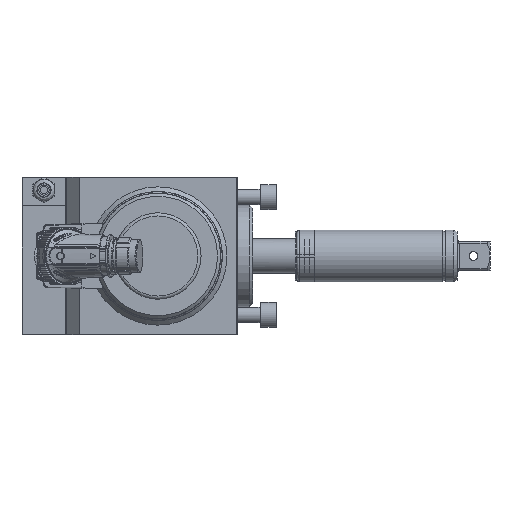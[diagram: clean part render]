
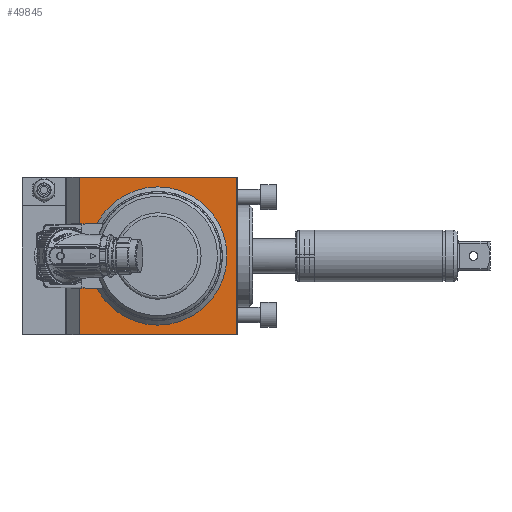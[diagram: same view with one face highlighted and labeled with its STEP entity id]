
A CAD part, left-side view. The second image highlights one B-rep face of the part: STEP entity #49845.
In plain terms, the highlighted planar face has unit normal (-1, 0, 0).
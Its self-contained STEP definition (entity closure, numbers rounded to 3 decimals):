
#2205 = EDGE_CURVE ( 'NONE', #42578, #44720, #16211, .T. ) ;
#12317 = CARTESIAN_POINT ( 'NONE',  ( -84., 0.5, 50. ) ) ;
#15547 = AXIS2_PLACEMENT_3D ( 'NONE', #73576, #31030, #80650 ) ;
#16211 = LINE ( 'NONE', #55803, #16306 ) ;
#16306 = VECTOR ( 'NONE', #49332, 1000. ) ;
#18783 = EDGE_LOOP ( 'NONE', ( #56045 ) ) ;
#22353 = ORIENTED_EDGE ( 'NONE', *, *, #2205, .F. ) ;
#26294 = VERTEX_POINT ( 'NONE', #92119 ) ;
#29940 = DIRECTION ( 'NONE',  ( 0., 0., 1. ) ) ;
#31030 = DIRECTION ( 'NONE',  ( 1., 0., 0. ) ) ;
#31476 = DIRECTION ( 'NONE',  ( -1., 0., 0. ) ) ;
#31494 = CARTESIAN_POINT ( 'NONE',  ( -84., 50.5, 44. ) ) ;
#31907 = CARTESIAN_POINT ( 'NONE',  ( -84., 0.5, 50. ) ) ;
#32854 = CIRCLE ( 'NONE', #15547, 44. ) ;
#34357 = EDGE_CURVE ( 'NONE', #44720, #72761, #50502, .T. ) ;
#42578 = VERTEX_POINT ( 'NONE', #66904 ) ;
#43750 = EDGE_LOOP ( 'NONE', ( #86301, #22353, #71253, #76436 ) ) ;
#44720 = VERTEX_POINT ( 'NONE', #12317 ) ;
#45742 = CARTESIAN_POINT ( 'NONE',  ( -84., 0.5, -50. ) ) ;
#45913 = DIRECTION ( 'NONE',  ( 0., 0., -1. ) ) ;
#49332 = DIRECTION ( 'NONE',  ( 0., -1., 0. ) ) ;
#49686 = EDGE_CURVE ( 'NONE', #26294, #42578, #62808, .T. ) ;
#49845 = ADVANCED_FACE ( 'NONE', ( #59825, #60278 ), #52600, .T. ) ;
#50502 = LINE ( 'NONE', #31907, #50863 ) ;
#50863 = VECTOR ( 'NONE', #45913, 1000. ) ;
#52600 = PLANE ( 'NONE',  #64503 ) ;
#55803 = CARTESIAN_POINT ( 'NONE',  ( -84., 0.5, 50. ) ) ;
#56045 = ORIENTED_EDGE ( 'NONE', *, *, #59262, .T. ) ;
#56080 = LINE ( 'NONE', #60286, #58506 ) ;
#58506 = VECTOR ( 'NONE', #81105, 1000. ) ;
#58928 = VERTEX_POINT ( 'NONE', #31494 ) ;
#59262 = EDGE_CURVE ( 'NONE', #58928, #58928, #32854, .T. ) ;
#59680 = CARTESIAN_POINT ( 'NONE',  ( -84., 50.5, 0. ) ) ;
#59825 = FACE_OUTER_BOUND ( 'NONE', #43750, .T. ) ;
#60278 = FACE_BOUND ( 'NONE', #18783, .T. ) ;
#60286 = CARTESIAN_POINT ( 'NONE',  ( -84., 0.5, -50. ) ) ;
#61657 = VECTOR ( 'NONE', #29940, 1000. ) ;
#62808 = LINE ( 'NONE', #86383, #61657 ) ;
#64503 = AXIS2_PLACEMENT_3D ( 'NONE', #59680, #31476, #81110 ) ;
#66904 = CARTESIAN_POINT ( 'NONE',  ( -84., 100.5, 50. ) ) ;
#71253 = ORIENTED_EDGE ( 'NONE', *, *, #49686, .F. ) ;
#72761 = VERTEX_POINT ( 'NONE', #45742 ) ;
#73576 = CARTESIAN_POINT ( 'NONE',  ( -84., 50.5, 0. ) ) ;
#76436 = ORIENTED_EDGE ( 'NONE', *, *, #87280, .F. ) ;
#80650 = DIRECTION ( 'NONE',  ( 0., 0., 1. ) ) ;
#81105 = DIRECTION ( 'NONE',  ( 0., 1., 0. ) ) ;
#81110 = DIRECTION ( 'NONE',  ( 0., 0., 1. ) ) ;
#86301 = ORIENTED_EDGE ( 'NONE', *, *, #34357, .F. ) ;
#86383 = CARTESIAN_POINT ( 'NONE',  ( -84., 100.5, 50. ) ) ;
#87280 = EDGE_CURVE ( 'NONE', #72761, #26294, #56080, .T. ) ;
#92119 = CARTESIAN_POINT ( 'NONE',  ( -84., 100.5, -50. ) ) ;
